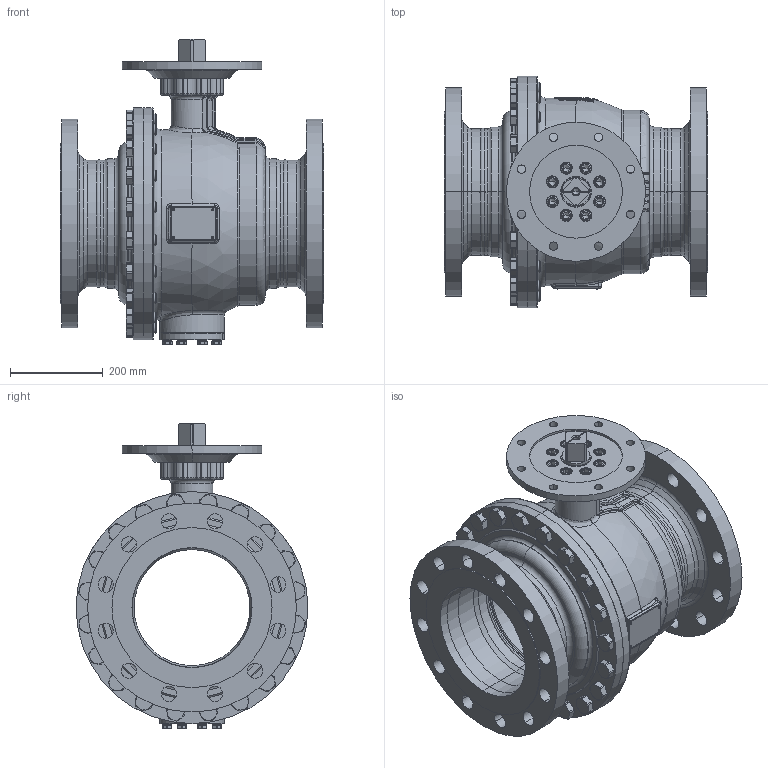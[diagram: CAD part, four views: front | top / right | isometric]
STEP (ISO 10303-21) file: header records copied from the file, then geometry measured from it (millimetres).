
FILE_DESCRIPTION((''),'2;1');
FILE_NAME('KHI-F_250_PN040-F25-4_SW0001','2026-02-05T14:11:32',('fischerkl'),('KLINGER'),'CREO PARAMETRIC BY PTC INC, 2023014','CREO PARAMETRIC BY PTC INC, 2023014','');
FILE_SCHEMA(('CONFIG_CONTROL_DESIGN'));
Products named in the file (1): KHI-F_250_PN040-F25-4_SW0001
Bounding box: 568 x 500 x 657.8 mm (x, y, z)
Volume: 26102141.7 mm3; surface area: 3693727.8 mm2
Topology: 1 solids, 4 shells, 3398 faces, 8637 edges, 5388 vertices
Faces by surface type: plane 1727, cylinder 806, cone 416, torus 310, bspline 97, sphere 42
Entity records: 139536 total; most frequent: CARTESIAN_POINT 58464, ORIENTED_EDGE 17198, DIRECTION 16700, EDGE_CURVE 8599, AXIS2_PLACEMENT_3D 6341, VERTEX_POINT 5388, VECTOR 4018, LINE 4018
